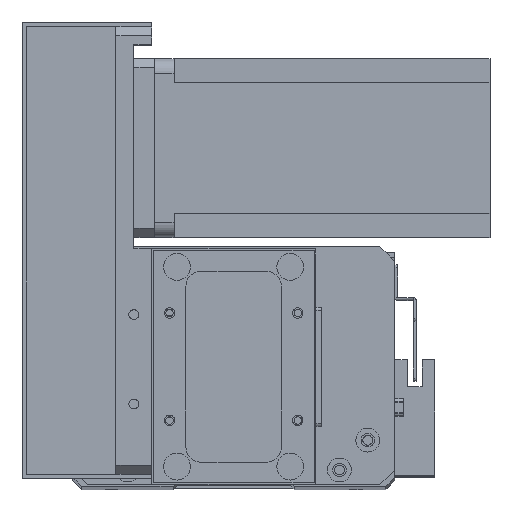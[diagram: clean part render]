
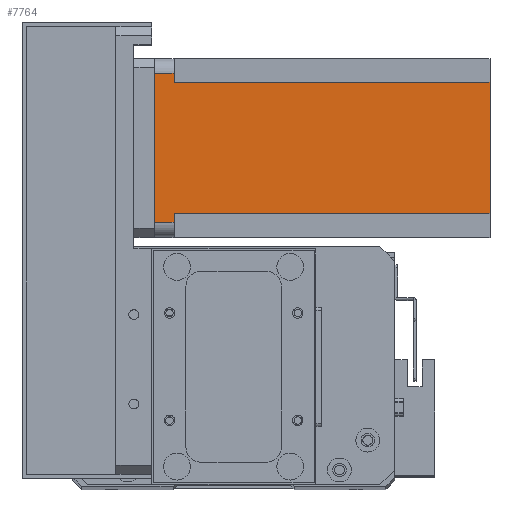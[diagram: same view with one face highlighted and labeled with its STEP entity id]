
A CAD part, top view. The second image highlights one B-rep face of the part: STEP entity #7764.
In plain terms, the highlighted planar face has unit normal (0, 0, 1) as drawn and (0, -1, 0) by its records, which use the part's own axes.
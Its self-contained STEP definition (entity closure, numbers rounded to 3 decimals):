
#1399 = VECTOR ( 'NONE', #10527, 1000. ) ;
#2024 = EDGE_CURVE ( 'NONE', #16460, #5722, #5382, .T. ) ;
#2454 = ORIENTED_EDGE ( 'NONE', *, *, #2801, .T. ) ;
#2538 = EDGE_LOOP ( 'NONE', ( #27533, #16286, #10932, #21771, #9615, #6279, #2454, #14110 ) ) ;
#2660 = EDGE_CURVE ( 'NONE', #17335, #18704, #18181, .T. ) ;
#2671 = EDGE_CURVE ( 'NONE', #18704, #5722, #28333, .T. ) ;
#2714 = EDGE_CURVE ( 'NONE', #16460, #3622, #16164, .T. ) ;
#2755 = EDGE_CURVE ( 'NONE', #25768, #3622, #14760, .T. ) ;
#2761 = EDGE_CURVE ( 'NONE', #5123, #25768, #25581, .T. ) ;
#2801 = EDGE_CURVE ( 'NONE', #5123, #9719, #29352, .T. ) ;
#2855 = EDGE_CURVE ( 'NONE', #17335, #9719, #5707, .T. ) ;
#3622 = VERTEX_POINT ( 'NONE', #19153 ) ;
#4179 = CARTESIAN_POINT ( 'NONE',  ( 52., 0., -112.5 ) ) ;
#4785 = CARTESIAN_POINT ( 'NONE',  ( 55., 0., -6.5 ) ) ;
#5123 = VERTEX_POINT ( 'NONE', #9066 ) ;
#5174 = DIRECTION ( 'NONE',  ( 0., 0., -1. ) ) ;
#5382 = LINE ( 'NONE', #14217, #10997 ) ;
#5707 = LINE ( 'NONE', #4179, #22236 ) ;
#5722 = VERTEX_POINT ( 'NONE', #25380 ) ;
#6279 = ORIENTED_EDGE ( 'NONE', *, *, #2761, .F. ) ;
#7321 = CARTESIAN_POINT ( 'NONE',  ( 52., 0., -112.5 ) ) ;
#7764 = ADVANCED_FACE ( 'NONE', ( #20876 ), #20915, .T. ) ;
#7862 = DIRECTION ( 'NONE',  ( 1., 0., 0. ) ) ;
#8810 = CARTESIAN_POINT ( 'NONE',  ( 0., 0., -112.5 ) ) ;
#9066 = CARTESIAN_POINT ( 'NONE',  ( 8., 0., -112.5 ) ) ;
#9502 = VECTOR ( 'NONE', #14327, 1000. ) ;
#9615 = ORIENTED_EDGE ( 'NONE', *, *, #2755, .F. ) ;
#9719 = VERTEX_POINT ( 'NONE', #7321 ) ;
#9978 = DIRECTION ( 'NONE',  ( 0., 0., -1. ) ) ;
#10333 = CARTESIAN_POINT ( 'NONE',  ( 8., 0., -112.5 ) ) ;
#10527 = DIRECTION ( 'NONE',  ( 0., 0., 1. ) ) ;
#10912 = DIRECTION ( 'NONE',  ( -1., 0., 0. ) ) ;
#10932 = ORIENTED_EDGE ( 'NONE', *, *, #2024, .F. ) ;
#10997 = VECTOR ( 'NONE', #20302, 1000. ) ;
#11117 = CARTESIAN_POINT ( 'NONE',  ( 8., 0., -6.5 ) ) ;
#14110 = ORIENTED_EDGE ( 'NONE', *, *, #2855, .F. ) ;
#14217 = CARTESIAN_POINT ( 'NONE',  ( 0., 0., 0. ) ) ;
#14327 = DIRECTION ( 'NONE',  ( 0., 0., -1. ) ) ;
#14630 = CARTESIAN_POINT ( 'NONE',  ( 5., 0., -112.5 ) ) ;
#14760 = LINE ( 'NONE', #11117, #19864 ) ;
#16164 = LINE ( 'NONE', #14630, #9502 ) ;
#16286 = ORIENTED_EDGE ( 'NONE', *, *, #2671, .T. ) ;
#16460 = VERTEX_POINT ( 'NONE', #25606 ) ;
#16875 = VECTOR ( 'NONE', #18059, 1000. ) ;
#17335 = VERTEX_POINT ( 'NONE', #25214 ) ;
#17864 = VECTOR ( 'NONE', #7862, 1000. ) ;
#18059 = DIRECTION ( 'NONE',  ( 0., 0., 1. ) ) ;
#18181 = LINE ( 'NONE', #19002, #23269 ) ;
#18704 = VERTEX_POINT ( 'NONE', #4785 ) ;
#18906 = CARTESIAN_POINT ( 'NONE',  ( 55., 0., -112.5 ) ) ;
#19002 = CARTESIAN_POINT ( 'NONE',  ( 52., 0., -6.5 ) ) ;
#19153 = CARTESIAN_POINT ( 'NONE',  ( 5., 0., -6.5 ) ) ;
#19199 = DIRECTION ( 'NONE',  ( 1., 0., 0. ) ) ;
#19864 = VECTOR ( 'NONE', #10912, 1000. ) ;
#20302 = DIRECTION ( 'NONE',  ( 1., 0., 0. ) ) ;
#20876 = FACE_OUTER_BOUND ( 'NONE', #2538, .T. ) ;
#20915 = PLANE ( 'NONE',  #21925 ) ;
#21771 = ORIENTED_EDGE ( 'NONE', *, *, #2714, .T. ) ;
#21925 = AXIS2_PLACEMENT_3D ( 'NONE', #25168, #23138, #9978 ) ;
#22236 = VECTOR ( 'NONE', #5174, 1000. ) ;
#23138 = DIRECTION ( 'NONE',  ( 0., -1., 0. ) ) ;
#23269 = VECTOR ( 'NONE', #19199, 1000. ) ;
#25168 = CARTESIAN_POINT ( 'NONE',  ( 0., 0., -112.5 ) ) ;
#25214 = CARTESIAN_POINT ( 'NONE',  ( 52., 0., -6.5 ) ) ;
#25380 = CARTESIAN_POINT ( 'NONE',  ( 55., 0., 0. ) ) ;
#25581 = LINE ( 'NONE', #10333, #1399 ) ;
#25606 = CARTESIAN_POINT ( 'NONE',  ( 5., 0., 0. ) ) ;
#25768 = VERTEX_POINT ( 'NONE', #29112 ) ;
#27533 = ORIENTED_EDGE ( 'NONE', *, *, #2660, .T. ) ;
#28333 = LINE ( 'NONE', #18906, #16875 ) ;
#29112 = CARTESIAN_POINT ( 'NONE',  ( 8., 0., -6.5 ) ) ;
#29352 = LINE ( 'NONE', #8810, #17864 ) ;
